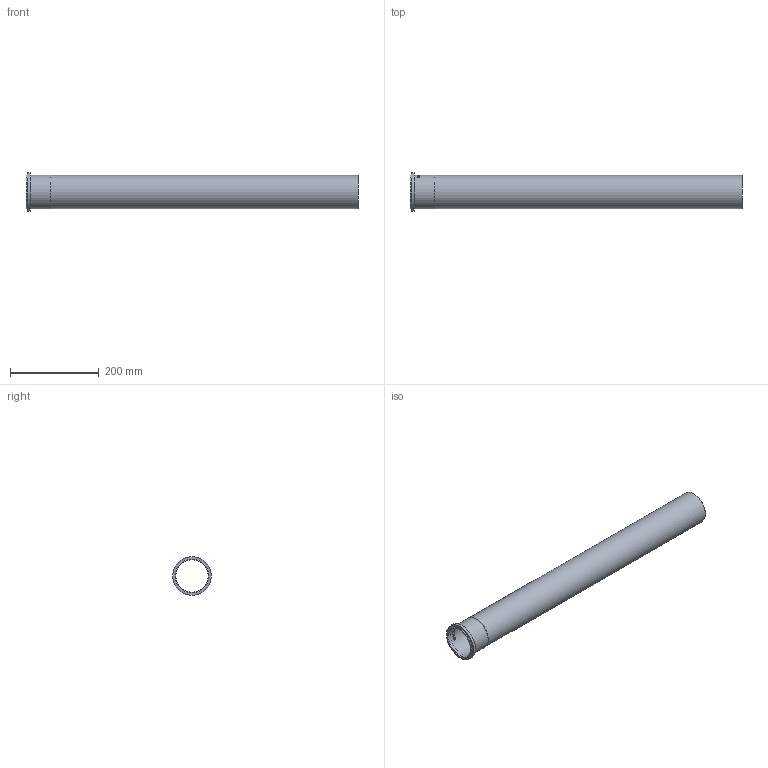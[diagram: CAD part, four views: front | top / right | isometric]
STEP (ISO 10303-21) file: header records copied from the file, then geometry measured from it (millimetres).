
FILE_DESCRIPTION((''),'2;1');
FILE_NAME('I:\WATTS\3D_CAD\3D_CAD_Models\Blucher_Drains\P_StraightPipe\WebsiteFiles\3D\STEP\P3-2.5-316.stp','2009-12-02T13:58:18',('menesek'),(''),'Autodesk Inventor 2010','Autodesk Inventor 2010','');
FILE_SCHEMA(('AUTOMOTIVE_DESIGN { 1 0 10303 214 1 1 1 1 }'));
Length unit declared in the file: inch
Products named in the file (1): P3-2.5-316
Bounding box: 750 x 87.12 x 87.12 mm (x, y, z)
Volume: 192676.7 mm3; surface area: 352342.5 mm2
Topology: 1 solids, 1 shells, 109 faces, 285 edges, 190 vertices
Faces by surface type: plane 59, bspline 34, cylinder 16
Full cylindrical faces by diameter (mm): 72.898 x1, 74.93 x1, 75.946 x2, 87.122 x1
Entity records: 13765 total; most frequent: CARTESIAN_POINT 11387, ORIENTED_EDGE 548, DIRECTION 356, EDGE_CURVE 274, VERTEX_POINT 186, EDGE_LOOP 128, AXIS2_PLACEMENT_3D 120, VECTOR 116
